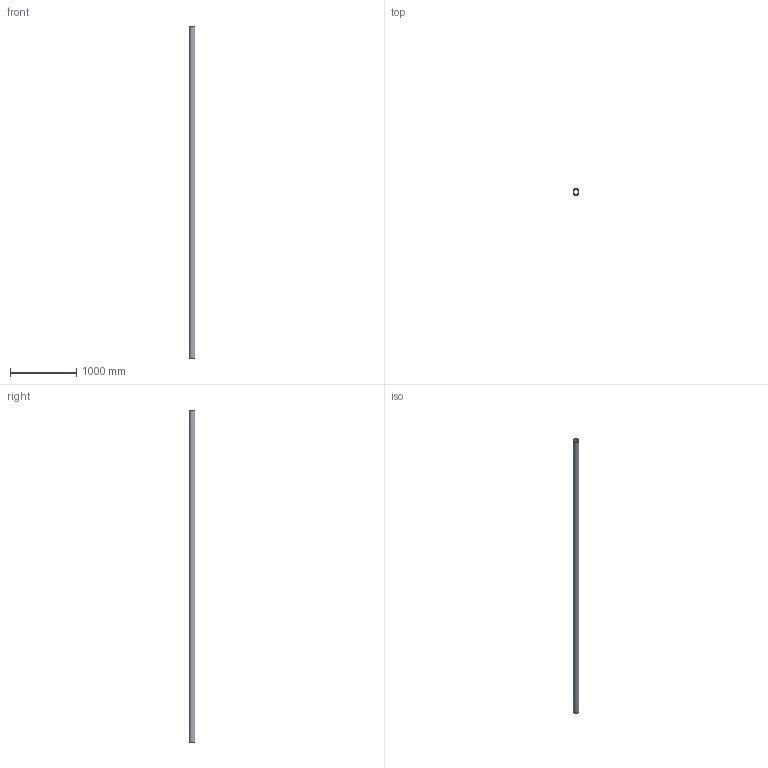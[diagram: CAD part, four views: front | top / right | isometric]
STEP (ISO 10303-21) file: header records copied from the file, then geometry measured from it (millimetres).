
FILE_DESCRIPTION(/* description */ (''),/* implementation_level */ '2;1');
FILE_NAME(/* name */ 'C:\Geberit-Teile\Export 2019\379.000.16.0\stp\366000.stp',/* time_stamp */ '2019-06-06T10:48:29+02:00',/* author */ ('JANAN'),/* organization */ (''),/* preprocessor_version */ 'ST-DEVELOPER v16.13',/* originating_system */ 'Autodesk Inventor 2018',/* authorisation */ '');
FILE_SCHEMA (('AUTOMOTIVE_DESIGN { 1 0 10303 214 3 1 1 }'));
Length unit declared in the file: millimetre
Products named in the file (1): Rohr PE-HD d90x3.5 L5000
Bounding box: 90 x 90 x 5000 mm (x, y, z)
Volume: 4755585.9 mm3; surface area: 2719379.9 mm2
Topology: 1 solids, 1 shells, 4 faces, 6 edges, 4 vertices
Faces by surface type: cylinder 2, plane 2
Full cylindrical faces by diameter (mm): 83 x1, 90 x1
Entity records: 131 total; most frequent: DIRECTION 18, CARTESIAN_POINT 13, AXIS2_PLACEMENT_3D 9, EDGE_LOOP 8, ORIENTED_EDGE 8, STYLED_ITEM 5, FACE_BOUND 4, FACE_OUTER_BOUND 4
